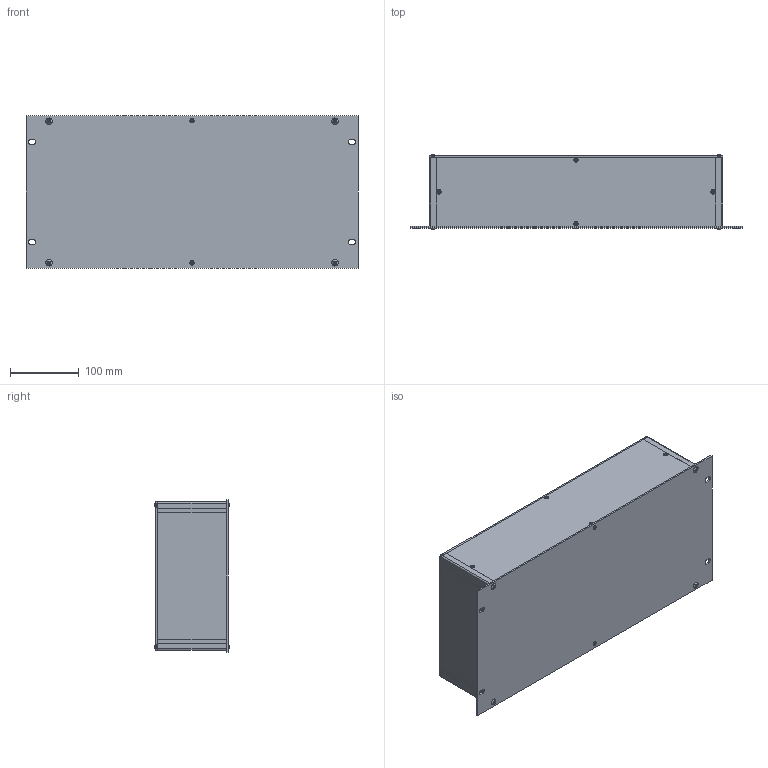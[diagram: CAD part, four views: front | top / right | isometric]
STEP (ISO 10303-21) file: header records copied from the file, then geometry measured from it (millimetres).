
FILE_DESCRIPTION(/* description */ (''),/* implementation_level */ '2;1');
FILE_NAME(/* name */ '//diskstation/Kunden/Gehäuse/Gehäuse/5HE/step/19 Zoll 5HE Rack Gehäuse Tiefe-100.step',/* time_stamp */ '2022-02-17T16:48:48+01:00',/* author */ (''),/* organization */ (''),/* preprocessor_version */ 'ST-DEVELOPER v18.1',/* originating_system */ 'Autodesk Translation Framework v10.10.0.1391',/* authorisation */ '');
FILE_SCHEMA (('AUTOMOTIVE_DESIGN { 1 0 10303 214 3 1 1 }'));
Length unit declared in the file: millimetre
Products named in the file (28): 5HE Gehäuse mit parametern; Gehäuse; Gehäuseprofil 1 unten links; Gehäuseprofil 2 oben rechts; Gehäuseprofil 1 unten rechts; Gehäuseprofil 2 oben links; Rückplatte; Deckel; Seitenteil links; Seitenteil rechts; Bodenplatte; Montageklotz Front/Deckel; Montageklotz Front/Boden; Montageklotz Rück/Deckel; Montageklotz Rück/Boden; Gewindestreifen; Frontplatte; Schrauben M5; Schraube Front; Schraube Front (1); Schraube Front (2); Schraube Front (3); Schraube Rück (1); Schraube Rück; Schraube Rück (2); Schraube Rück (3); Schrauben M3; HI_Senkschraube DIN 965 A v2 M3x5 24677.030.005(High)
Assembly tree (37 placements, depth 3):
  5HE Gehäuse mit parametern
    Gehäuse
      Gehäuseprofil 1 unten links
      Gehäuseprofil 2 oben rechts
      Gehäuseprofil 1 unten rechts
      Gehäuseprofil 2 oben links
      Rückplatte
      Deckel
      Seitenteil links
      Seitenteil rechts
      Bodenplatte
      Montageklotz Front/Deckel
      Montageklotz Front/Boden
      Montageklotz Rück/Deckel
      Montageklotz Rück/Boden
      Gewindestreifen  x2
    Frontplatte
    Schrauben M5
      Schraube Front
      Schraube Front (1)
      Schraube Front (2)
      Schraube Front (3)
      Schraube Rück (1)
      Schraube Rück
      Schraube Rück (2)
      Schraube Rück (3)
    Schrauben M3
      HI_Senkschraube DIN 965 A v2 M3x5 24677.030.005(High)  x10
Bounding box: 483 x 108.2 x 221.4 mm (x, y, z)
Volume: 821260.8 mm3; surface area: 699953.2 mm2
Topology: 34 solids, 34 shells, 802 faces, 1920 edges, 1186 vertices
Faces by surface type: plane 346, cylinder 276, cone 164, torus 8, bspline 8
Full cylindrical faces by diameter (mm): 2.529 x30, 3 x10, 3.2 x10, 4.234 x40, 5 x8, 5.2 x4, 5.3 x8, 5.6 x10, 9.5 x8
Entity records: 15811 total; most frequent: CARTESIAN_POINT 2922, DIRECTION 2634, ORIENTED_EDGE 2334, EDGE_CURVE 1167, AXIS2_PLACEMENT_3D 978, VERTEX_POINT 726, LINE 678, VECTOR 678
